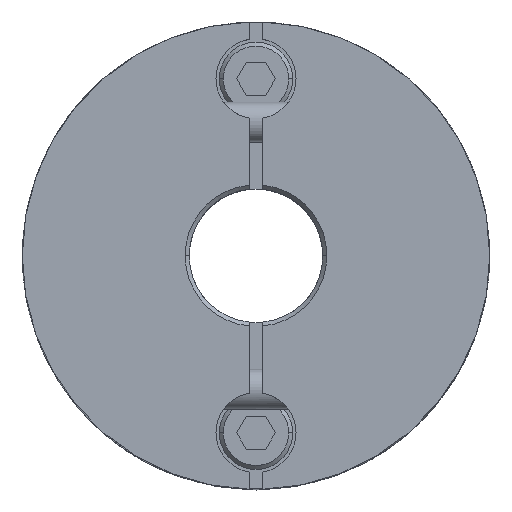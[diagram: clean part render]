
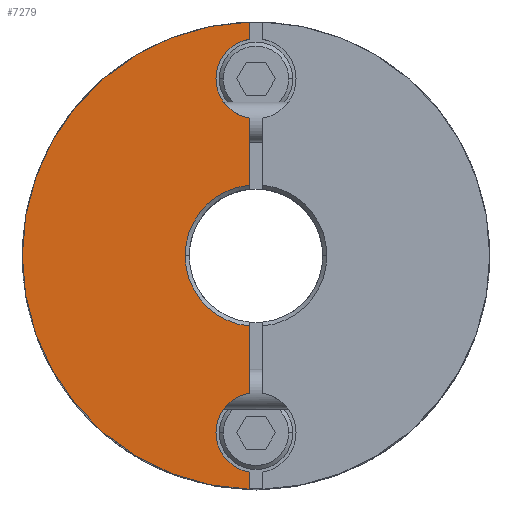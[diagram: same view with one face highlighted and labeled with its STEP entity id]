
A CAD part, top view. The second image highlights one B-rep face of the part: STEP entity #7279.
In plain terms, the highlighted planar face has unit normal (0, 0, 1).
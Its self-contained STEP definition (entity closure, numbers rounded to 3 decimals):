
#751=CARTESIAN_POINT('',(-5.3,0.,13.5));
#752=VERTEX_POINT('',#751);
#759=CARTESIAN_POINT('',(-0.5,-5.276,13.5));
#760=VERTEX_POINT('',#759);
#761=CARTESIAN_POINT('',(0.0,0.,13.5));
#762=DIRECTION('',(0.0,0.0,1.0));
#763=DIRECTION('',(1.0,0.0,0.0));
#764=AXIS2_PLACEMENT_3D('',#761,#762,#763);
#765=CIRCLE('',#764,5.3);
#766=EDGE_CURVE('',#752,#760,#765,.T.);
#831=CARTESIAN_POINT('',(-17.5,0.,13.5));
#832=VERTEX_POINT('',#831);
#916=CARTESIAN_POINT('',(-0.5,-17.493,13.5));
#917=VERTEX_POINT('',#916);
#924=CARTESIAN_POINT('',(0.0,0.,13.5));
#925=DIRECTION('',(0.0,0.0,-1.0));
#926=DIRECTION('',(-1.0,0.0,0.0));
#927=AXIS2_PLACEMENT_3D('',#924,#925,#926);
#928=CIRCLE('',#927,17.5);
#929=EDGE_CURVE('',#917,#832,#928,.T.);
#1353=CARTESIAN_POINT('',(-3.,-13.25,13.5));
#1354=VERTEX_POINT('',#1353);
#1363=CARTESIAN_POINT('',(-0.5,-16.208,13.5));
#1364=VERTEX_POINT('',#1363);
#1365=CARTESIAN_POINT('',(0.,-13.25,13.5));
#1366=DIRECTION('',(0.0,0.0,-1.0));
#1367=DIRECTION('',(-1.0,0.0,0.0));
#1368=AXIS2_PLACEMENT_3D('',#1365,#1366,#1367);
#1369=CIRCLE('',#1368,3.0);
#1370=EDGE_CURVE('',#1364,#1354,#1369,.T.);
#1585=CARTESIAN_POINT('',(-3.,13.25,13.5));
#1586=VERTEX_POINT('',#1585);
#1595=CARTESIAN_POINT('',(-0.5,10.292,13.5));
#1596=VERTEX_POINT('',#1595);
#1597=CARTESIAN_POINT('',(0.,13.25,13.5));
#1598=DIRECTION('',(0.0,0.0,-1.0));
#1599=DIRECTION('',(-1.0,0.0,0.0));
#1600=AXIS2_PLACEMENT_3D('',#1597,#1598,#1599);
#1601=CIRCLE('',#1600,3.0);
#1602=EDGE_CURVE('',#1596,#1586,#1601,.T.);
#5986=CARTESIAN_POINT('',(-0.5,16.208,13.5));
#5987=VERTEX_POINT('',#5986);
#5994=CARTESIAN_POINT('',(0.,13.25,13.5));
#5995=DIRECTION('',(0.0,0.0,-1.0));
#5996=DIRECTION('',(-1.0,0.0,0.0));
#5997=AXIS2_PLACEMENT_3D('',#5994,#5995,#5996);
#5998=CIRCLE('',#5997,3.0);
#5999=EDGE_CURVE('',#1586,#5987,#5998,.T.);
#6401=CARTESIAN_POINT('',(-0.5,-10.292,13.5));
#6402=VERTEX_POINT('',#6401);
#6409=CARTESIAN_POINT('',(0.,-13.25,13.5));
#6410=DIRECTION('',(0.0,0.0,-1.0));
#6411=DIRECTION('',(-1.0,0.0,0.0));
#6412=AXIS2_PLACEMENT_3D('',#6409,#6410,#6411);
#6413=CIRCLE('',#6412,3.0);
#6414=EDGE_CURVE('',#1354,#6402,#6413,.T.);
#6563=CARTESIAN_POINT('',(-0.5,5.276,13.5));
#6564=VERTEX_POINT('',#6563);
#6565=CARTESIAN_POINT('',(-0.5,5.276,13.5));
#6566=DIRECTION('',(0.0,1.0,0.0));
#6567=VECTOR('',#6566,5.016);
#6568=LINE('',#6565,#6567);
#6569=EDGE_CURVE('',#6564,#1596,#6568,.T.);
#6620=CARTESIAN_POINT('',(-0.5,-10.292,13.5));
#6621=DIRECTION('',(0.0,1.0,0.0));
#6622=VECTOR('',#6621,5.016);
#6623=LINE('',#6620,#6622);
#6624=EDGE_CURVE('',#6402,#760,#6623,.T.);
#7225=CARTESIAN_POINT('',(-0.5,-17.493,13.5));
#7226=DIRECTION('',(0.0,1.0,0.0));
#7227=VECTOR('',#7226,1.285);
#7228=LINE('',#7225,#7227);
#7229=EDGE_CURVE('',#917,#1364,#7228,.T.);
#7241=CARTESIAN_POINT('',(-1.591,0.,13.5));
#7242=DIRECTION('',(0.0,0.0,1.0));
#7243=DIRECTION('',(-1.0,0.0,0.0));
#7244=AXIS2_PLACEMENT_3D('',#7241,#7242,#7243);
#7245=PLANE('',#7244);
#7246=ORIENTED_EDGE('',*,*,#1370,.T.);
#7247=ORIENTED_EDGE('',*,*,#6414,.T.);
#7248=ORIENTED_EDGE('',*,*,#6624,.T.);
#7249=ORIENTED_EDGE('',*,*,#766,.F.);
#7250=CARTESIAN_POINT('',(0.0,0.,13.5));
#7251=DIRECTION('',(0.0,0.0,1.0));
#7252=DIRECTION('',(1.0,0.0,0.0));
#7253=AXIS2_PLACEMENT_3D('',#7250,#7251,#7252);
#7254=CIRCLE('',#7253,5.3);
#7255=EDGE_CURVE('',#6564,#752,#7254,.T.);
#7256=ORIENTED_EDGE('',*,*,#7255,.F.);
#7257=ORIENTED_EDGE('',*,*,#6569,.T.);
#7258=ORIENTED_EDGE('',*,*,#1602,.T.);
#7259=ORIENTED_EDGE('',*,*,#5999,.T.);
#7260=CARTESIAN_POINT('',(-0.5,17.493,13.5));
#7261=VERTEX_POINT('',#7260);
#7262=CARTESIAN_POINT('',(-0.5,16.208,13.5));
#7263=DIRECTION('',(0.0,1.0,0.0));
#7264=VECTOR('',#7263,1.285);
#7265=LINE('',#7262,#7264);
#7266=EDGE_CURVE('',#5987,#7261,#7265,.T.);
#7267=ORIENTED_EDGE('',*,*,#7266,.T.);
#7268=CARTESIAN_POINT('',(0.0,0.,13.5));
#7269=DIRECTION('',(0.0,0.0,-1.0));
#7270=DIRECTION('',(-1.0,0.0,0.0));
#7271=AXIS2_PLACEMENT_3D('',#7268,#7269,#7270);
#7272=CIRCLE('',#7271,17.5);
#7273=EDGE_CURVE('',#832,#7261,#7272,.T.);
#7274=ORIENTED_EDGE('',*,*,#7273,.F.);
#7275=ORIENTED_EDGE('',*,*,#929,.F.);
#7276=ORIENTED_EDGE('',*,*,#7229,.T.);
#7277=EDGE_LOOP('',(#7246,#7247,#7248,#7249,#7256,#7257,#7258,#7259,#7267,#7274,#7275,#7276));
#7278=FACE_OUTER_BOUND('',#7277,.T.);
#7279=ADVANCED_FACE('',(#7278),#7245,.T.);
